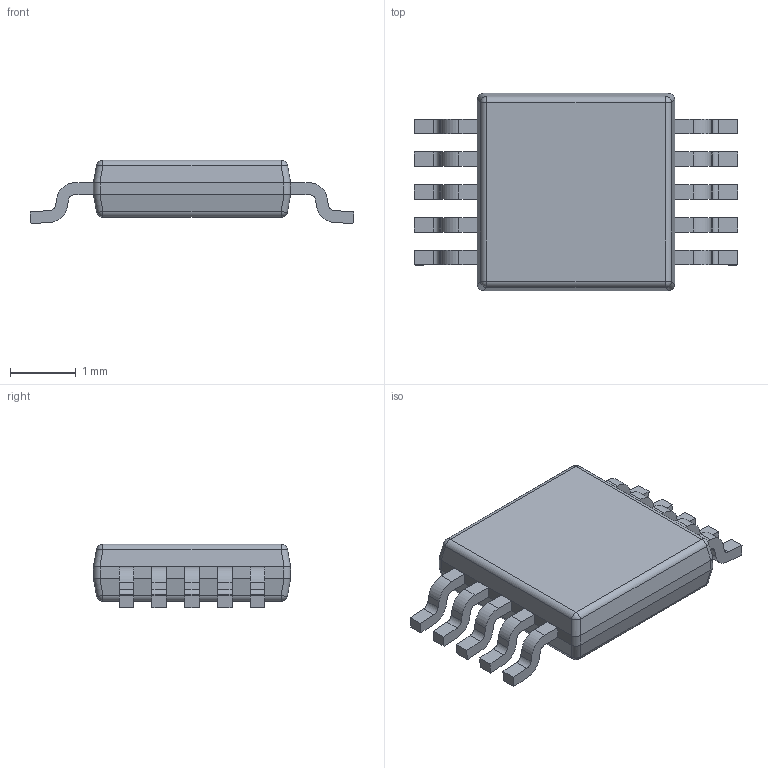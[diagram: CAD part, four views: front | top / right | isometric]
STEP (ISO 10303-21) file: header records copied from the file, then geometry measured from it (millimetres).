
FILE_DESCRIPTION((''),'2;1');
FILE_NAME('DGQ0010H_ASM','2022-05-10T08:10:40',('a0412086'),(''),'CREO PARAMETRIC BY PTC INC, 2018500','CREO PARAMETRIC BY PTC INC, 2018500','');
FILE_SCHEMA(('CONFIG_CONTROL_DESIGN','SHAPE_APPEARANCE_LAYERS_GROUPS'));
Length unit declared in the file: millimetre
Products named in the file (4): BODY-SO; LEAD-SO; THERMALPAD-SO; DGQ0010H_ASM
Assembly tree (12 placements, depth 2):
  DGQ0010H_ASM
    BODY-SO
    LEAD-SO  x10
    THERMALPAD-SO
Bounding box: 4.93 x 3 x 0.96 mm (x, y, z)
Volume: 8 mm3; surface area: 45.2 mm2
Topology: 12 solids, 12 shells, 249 faces, 632 edges, 408 vertices
Faces by surface type: plane 181, cylinder 60, sphere 8
Entity records: 5080 total; most frequent: CARTESIAN_POINT 1055, ORIENTED_EDGE 616, DIRECTION 586, PRESENTATION_STYLE_ASSIGNMENT 311, STYLED_ITEM 311, CURVE_STYLE 308, EDGE_CURVE 308, VECTOR 244
